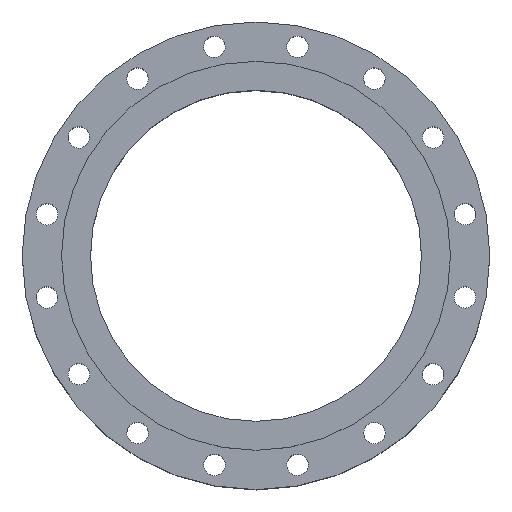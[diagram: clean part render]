
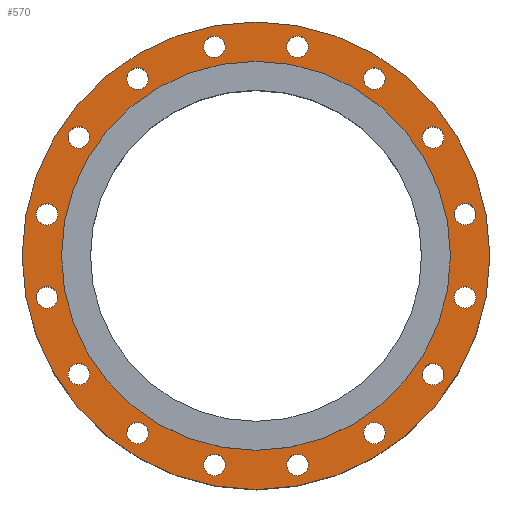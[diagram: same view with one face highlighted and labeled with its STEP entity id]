
A CAD part, top view. The second image highlights one B-rep face of the part: STEP entity #570.
In plain terms, the highlighted planar face has unit normal (0, 0, 1).
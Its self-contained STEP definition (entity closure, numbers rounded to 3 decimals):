
#570=ADVANCED_FACE('',(#1227,#1229,#1231,#1233,#1235,#1237,#1239,#1241,#1243,#1245,
#1247,#1249,#1251,#1253,#1255,#1257,#1259,#1261),#1263,.T.);
#1227=FACE_BOUND('',#1228,.T.);
#1228=EDGE_LOOP('',(#1588));
#1229=FACE_BOUND('',#1230,.T.);
#1230=EDGE_LOOP('',(#1589));
#1231=FACE_BOUND('',#1232,.T.);
#1232=EDGE_LOOP('',(#1590));
#1233=FACE_BOUND('',#1234,.T.);
#1234=EDGE_LOOP('',(#1591));
#1235=FACE_BOUND('',#1236,.T.);
#1236=EDGE_LOOP('',(#1592));
#1237=FACE_BOUND('',#1238,.T.);
#1238=EDGE_LOOP('',(#1593));
#1239=FACE_BOUND('',#1240,.T.);
#1240=EDGE_LOOP('',(#1594));
#1241=FACE_BOUND('',#1242,.T.);
#1242=EDGE_LOOP('',(#1595));
#1243=FACE_BOUND('',#1244,.T.);
#1244=EDGE_LOOP('',(#1596));
#1245=FACE_BOUND('',#1246,.T.);
#1246=EDGE_LOOP('',(#1597));
#1247=FACE_BOUND('',#1248,.T.);
#1248=EDGE_LOOP('',(#1598));
#1249=FACE_BOUND('',#1250,.T.);
#1250=EDGE_LOOP('',(#1599));
#1251=FACE_BOUND('',#1252,.T.);
#1252=EDGE_LOOP('',(#1600));
#1253=FACE_BOUND('',#1254,.T.);
#1254=EDGE_LOOP('',(#1601));
#1255=FACE_BOUND('',#1256,.T.);
#1256=EDGE_LOOP('',(#1602));
#1257=FACE_BOUND('',#1258,.T.);
#1258=EDGE_LOOP('',(#1603));
#1259=FACE_BOUND('',#1260,.T.);
#1260=EDGE_LOOP('',(#1604));
#1261=FACE_BOUND('',#1262,.T.);
#1262=EDGE_LOOP('',(#1605));
#1263=PLANE('',#1264);
#1264=AXIS2_PLACEMENT_3D('',#1265,#1266,#1267);
#1265=CARTESIAN_POINT('',(0.,0.,122.5));
#1266=DIRECTION('',(0.,0.,1.));
#1267=DIRECTION('',(0.,1.,0.));
#1588=ORIENTED_EDGE('',*,*,#1724,.F.);
#1589=ORIENTED_EDGE('',*,*,#1725,.T.);
#1590=ORIENTED_EDGE('',*,*,#1726,.T.);
#1591=ORIENTED_EDGE('',*,*,#1727,.T.);
#1592=ORIENTED_EDGE('',*,*,#1728,.T.);
#1593=ORIENTED_EDGE('',*,*,#1729,.T.);
#1594=ORIENTED_EDGE('',*,*,#1730,.T.);
#1595=ORIENTED_EDGE('',*,*,#1731,.T.);
#1596=ORIENTED_EDGE('',*,*,#1732,.T.);
#1597=ORIENTED_EDGE('',*,*,#1733,.T.);
#1598=ORIENTED_EDGE('',*,*,#1734,.T.);
#1599=ORIENTED_EDGE('',*,*,#1735,.T.);
#1600=ORIENTED_EDGE('',*,*,#1736,.T.);
#1601=ORIENTED_EDGE('',*,*,#1737,.T.);
#1602=ORIENTED_EDGE('',*,*,#1738,.T.);
#1603=ORIENTED_EDGE('',*,*,#1739,.T.);
#1604=ORIENTED_EDGE('',*,*,#1758,.T.);
#1605=ORIENTED_EDGE('',*,*,#1740,.T.);
#1724=EDGE_CURVE('',#1918,#1918,#1919,.T.);
#1725=EDGE_CURVE('',#1920,#1920,#1921,.T.);
#1726=EDGE_CURVE('',#1922,#1922,#1923,.T.);
#1727=EDGE_CURVE('',#1924,#1924,#1925,.T.);
#1728=EDGE_CURVE('',#1926,#1926,#1927,.T.);
#1729=EDGE_CURVE('',#1928,#1928,#1929,.T.);
#1730=EDGE_CURVE('',#1930,#1930,#1931,.T.);
#1731=EDGE_CURVE('',#1932,#1932,#1933,.T.);
#1732=EDGE_CURVE('',#1934,#1934,#1935,.T.);
#1733=EDGE_CURVE('',#1936,#1936,#1937,.T.);
#1734=EDGE_CURVE('',#1938,#1938,#1939,.T.);
#1735=EDGE_CURVE('',#1940,#1940,#1941,.T.);
#1736=EDGE_CURVE('',#1942,#1942,#1943,.T.);
#1737=EDGE_CURVE('',#1944,#1944,#1945,.T.);
#1738=EDGE_CURVE('',#1946,#1946,#1947,.T.);
#1739=EDGE_CURVE('',#1948,#1948,#1949,.T.);
#1740=EDGE_CURVE('',#1950,#1950,#1951,.T.);
#1758=EDGE_CURVE('',#1986,#1986,#1987,.T.);
#1918=VERTEX_POINT('',#3363);
#1919=CIRCLE('',#3364,282.5);
#1920=VERTEX_POINT('',#3368);
#1921=CIRCLE('',#3369,13.);
#1922=VERTEX_POINT('',#3373);
#1923=CIRCLE('',#3374,13.);
#1924=VERTEX_POINT('',#3378);
#1925=CIRCLE('',#3379,13.);
#1926=VERTEX_POINT('',#3383);
#1927=CIRCLE('',#3384,13.);
#1928=VERTEX_POINT('',#3388);
#1929=CIRCLE('',#3389,13.);
#1930=VERTEX_POINT('',#3393);
#1931=CIRCLE('',#3394,13.);
#1932=VERTEX_POINT('',#3398);
#1933=CIRCLE('',#3399,13.);
#1934=VERTEX_POINT('',#3403);
#1935=CIRCLE('',#3404,13.);
#1936=VERTEX_POINT('',#3408);
#1937=CIRCLE('',#3409,13.);
#1938=VERTEX_POINT('',#3413);
#1939=CIRCLE('',#3414,13.);
#1940=VERTEX_POINT('',#3418);
#1941=CIRCLE('',#3419,13.);
#1942=VERTEX_POINT('',#3423);
#1943=CIRCLE('',#3424,13.);
#1944=VERTEX_POINT('',#3428);
#1945=CIRCLE('',#3429,13.);
#1946=VERTEX_POINT('',#3433);
#1947=CIRCLE('',#3434,13.);
#1948=VERTEX_POINT('',#3438);
#1949=CIRCLE('',#3439,13.);
#1950=VERTEX_POINT('',#3443);
#1951=CIRCLE('',#3444,13.);
#1986=VERTEX_POINT('',#3533);
#1987=CIRCLE('',#3534,235.);
#3363=CARTESIAN_POINT('',(0.,282.5,122.5));
#3364=AXIS2_PLACEMENT_3D('',#3365,#3366,#3367);
#3365=CARTESIAN_POINT('',(0.,0.,122.5));
#3366=DIRECTION('',(0.,0.,-1.));
#3367=DIRECTION('',(0.,1.,0.));
#3368=CARTESIAN_POINT('',(131.049,219.078,122.5));
#3369=AXIS2_PLACEMENT_3D('',#3370,#3371,#3372);
#3370=CARTESIAN_POINT('',(143.059,214.103,122.5));
#3371=DIRECTION('',(0.,0.,-1.));
#3372=DIRECTION('',(-0.924,0.383,0.));
#3373=CARTESIAN_POINT('',(204.911,152.252,122.5));
#3374=AXIS2_PLACEMENT_3D('',#3375,#3376,#3377);
#3375=CARTESIAN_POINT('',(214.103,143.059,122.5));
#3376=DIRECTION('',(0.,0.,-1.));
#3377=DIRECTION('',(-0.707,0.707,0.));
#3378=CARTESIAN_POINT('',(247.577,62.246,122.5));
#3379=AXIS2_PLACEMENT_3D('',#3380,#3381,#3382);
#3380=CARTESIAN_POINT('',(252.552,50.236,122.5));
#3381=DIRECTION('',(0.,0.,-1.));
#3382=DIRECTION('',(-0.383,0.924,0.));
#3383=CARTESIAN_POINT('',(252.552,-37.236,122.5));
#3384=AXIS2_PLACEMENT_3D('',#3385,#3386,#3387);
#3385=CARTESIAN_POINT('',(252.552,-50.236,122.5));
#3386=DIRECTION('',(0.,0.,-1.));
#3387=DIRECTION('',(0.,1.,0.));
#3388=CARTESIAN_POINT('',(219.078,-131.049,122.5));
#3389=AXIS2_PLACEMENT_3D('',#3390,#3391,#3392);
#3390=CARTESIAN_POINT('',(214.103,-143.059,122.5));
#3391=DIRECTION('',(0.,0.,-1.));
#3392=DIRECTION('',(0.383,0.924,0.));
#3393=CARTESIAN_POINT('',(152.252,-204.911,122.5));
#3394=AXIS2_PLACEMENT_3D('',#3395,#3396,#3397);
#3395=CARTESIAN_POINT('',(143.059,-214.103,122.5));
#3396=DIRECTION('',(0.,0.,-1.));
#3397=DIRECTION('',(0.707,0.707,0.));
#3398=CARTESIAN_POINT('',(62.246,-247.577,122.5));
#3399=AXIS2_PLACEMENT_3D('',#3400,#3401,#3402);
#3400=CARTESIAN_POINT('',(50.236,-252.552,122.5));
#3401=DIRECTION('',(0.,0.,-1.));
#3402=DIRECTION('',(0.924,0.383,0.));
#3403=CARTESIAN_POINT('',(-37.236,-252.552,122.5));
#3404=AXIS2_PLACEMENT_3D('',#3405,#3406,#3407);
#3405=CARTESIAN_POINT('',(-50.236,-252.552,122.5));
#3406=DIRECTION('',(0.,0.,-1.));
#3407=DIRECTION('',(1.,0.,0.));
#3408=CARTESIAN_POINT('',(-131.049,-219.078,122.5));
#3409=AXIS2_PLACEMENT_3D('',#3410,#3411,#3412);
#3410=CARTESIAN_POINT('',(-143.059,-214.103,122.5));
#3411=DIRECTION('',(0.,0.,-1.));
#3412=DIRECTION('',(0.924,-0.383,0.));
#3413=CARTESIAN_POINT('',(-204.911,-152.252,122.5));
#3414=AXIS2_PLACEMENT_3D('',#3415,#3416,#3417);
#3415=CARTESIAN_POINT('',(-214.103,-143.059,122.5));
#3416=DIRECTION('',(0.,0.,-1.));
#3417=DIRECTION('',(0.707,-0.707,0.));
#3418=CARTESIAN_POINT('',(-247.577,-62.246,122.5));
#3419=AXIS2_PLACEMENT_3D('',#3420,#3421,#3422);
#3420=CARTESIAN_POINT('',(-252.552,-50.236,122.5));
#3421=DIRECTION('',(0.,0.,-1.));
#3422=DIRECTION('',(0.383,-0.924,0.));
#3423=CARTESIAN_POINT('',(-252.552,37.236,122.5));
#3424=AXIS2_PLACEMENT_3D('',#3425,#3426,#3427);
#3425=CARTESIAN_POINT('',(-252.552,50.236,122.5));
#3426=DIRECTION('',(0.,0.,-1.));
#3427=DIRECTION('',(0.,-1.,0.));
#3428=CARTESIAN_POINT('',(-219.078,131.049,122.5));
#3429=AXIS2_PLACEMENT_3D('',#3430,#3431,#3432);
#3430=CARTESIAN_POINT('',(-214.103,143.059,122.5));
#3431=DIRECTION('',(0.,0.,-1.));
#3432=DIRECTION('',(-0.383,-0.924,0.));
#3433=CARTESIAN_POINT('',(-152.252,204.911,122.5));
#3434=AXIS2_PLACEMENT_3D('',#3435,#3436,#3437);
#3435=CARTESIAN_POINT('',(-143.059,214.103,122.5));
#3436=DIRECTION('',(0.,0.,-1.));
#3437=DIRECTION('',(-0.707,-0.707,0.));
#3438=CARTESIAN_POINT('',(-62.246,247.577,122.5));
#3439=AXIS2_PLACEMENT_3D('',#3440,#3441,#3442);
#3440=CARTESIAN_POINT('',(-50.236,252.552,122.5));
#3441=DIRECTION('',(0.,0.,-1.));
#3442=DIRECTION('',(-0.924,-0.383,0.));
#3443=CARTESIAN_POINT('',(37.236,252.552,122.5));
#3444=AXIS2_PLACEMENT_3D('',#3445,#3446,#3447);
#3445=CARTESIAN_POINT('',(50.236,252.552,122.5));
#3446=DIRECTION('',(0.,0.,-1.));
#3447=DIRECTION('',(-1.,0.,0.));
#3533=CARTESIAN_POINT('',(0.,235.,122.5));
#3534=AXIS2_PLACEMENT_3D('',#3535,#3536,#3537);
#3535=CARTESIAN_POINT('',(0.,0.,122.5));
#3536=DIRECTION('',(0.,0.,-1.));
#3537=DIRECTION('',(0.,1.,0.));
